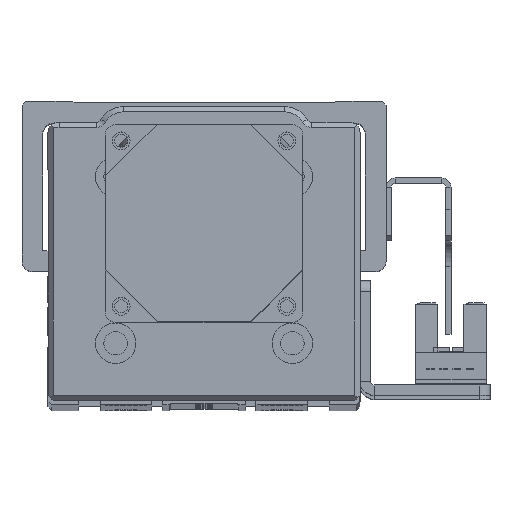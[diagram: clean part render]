
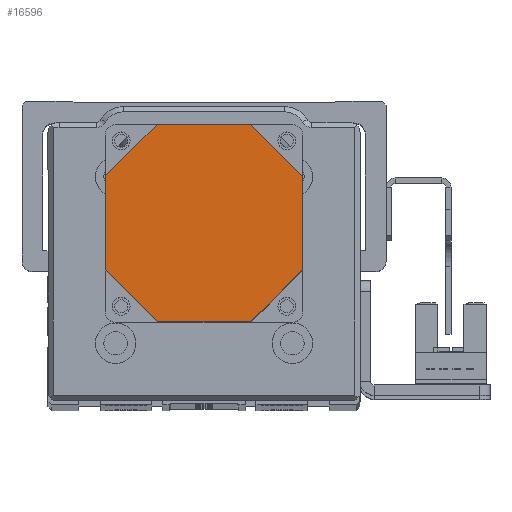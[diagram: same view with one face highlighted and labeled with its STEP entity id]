
A CAD part, top view. The second image highlights one B-rep face of the part: STEP entity #16596.
In plain terms, the highlighted planar face has unit normal (0, 0, 1) as drawn and (0, 0, -1) by its records, which use the part's own axes.
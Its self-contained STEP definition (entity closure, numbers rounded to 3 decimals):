
#3994 = EDGE_LOOP ( 'NONE', ( #14112, #14205, #14138, #14051, #13997, #14090, #14099, #14114 ) ) ;
#4640 = DIRECTION ( 'NONE',  ( 1., 0., 0. ) ) ;
#4665 = CARTESIAN_POINT ( 'NONE',  ( 9., 19., -84. ) ) ;
#4666 = CARTESIAN_POINT ( 'NONE',  ( 19., 9., -84. ) ) ;
#4692 = DIRECTION ( 'NONE',  ( 0., -1., 0. ) ) ;
#4759 = CARTESIAN_POINT ( 'NONE',  ( 19., -9., -84. ) ) ;
#4767 = DIRECTION ( 'NONE',  ( -0.707, -0.707, 0. ) ) ;
#4810 = CARTESIAN_POINT ( 'NONE',  ( -9., -19., -84. ) ) ;
#4827 = DIRECTION ( 'NONE',  ( -0.707, 0.707, 0. ) ) ;
#4898 = DIRECTION ( 'NONE',  ( 0.707, -0.707, 0. ) ) ;
#4901 = CARTESIAN_POINT ( 'NONE',  ( 9., -19., -84. ) ) ;
#4908 = DIRECTION ( 'NONE',  ( -1., 0., 0. ) ) ;
#4928 = CARTESIAN_POINT ( 'NONE',  ( 19., 9., -84. ) ) ;
#5003 = CARTESIAN_POINT ( 'NONE',  ( -19., 9., -84. ) ) ;
#5008 = DIRECTION ( 'NONE',  ( 0., 1., 0. ) ) ;
#5100 = CARTESIAN_POINT ( 'NONE',  ( -9., 19., -84. ) ) ;
#5105 = DIRECTION ( 'NONE',  ( 0.707, 0.707, 0. ) ) ;
#7036 = EDGE_CURVE ( 'NONE', #9597, #9594, #20136, .T. ) ;
#7053 = EDGE_CURVE ( 'NONE', #9551, #9556, #20239, .T. ) ;
#7090 = EDGE_CURVE ( 'NONE', #9556, #9566, #20288, .T. ) ;
#7099 = EDGE_CURVE ( 'NONE', #9647, #9634, #20302, .T. ) ;
#7116 = EDGE_CURVE ( 'NONE', #9594, #9551, #20433, .T. ) ;
#7122 = EDGE_CURVE ( 'NONE', #9566, #9647, #20465, .T. ) ;
#7148 = EDGE_CURVE ( 'NONE', #9634, #9613, #20527, .T. ) ;
#7185 = EDGE_CURVE ( 'NONE', #9613, #9597, #20551, .T. ) ;
#9551 = VERTEX_POINT ( 'NONE', #10848 ) ;
#9556 = VERTEX_POINT ( 'NONE', #10816 ) ;
#9566 = VERTEX_POINT ( 'NONE', #10880 ) ;
#9594 = VERTEX_POINT ( 'NONE', #10882 ) ;
#9597 = VERTEX_POINT ( 'NONE', #10863 ) ;
#9613 = VERTEX_POINT ( 'NONE', #10892 ) ;
#9634 = VERTEX_POINT ( 'NONE', #10974 ) ;
#9647 = VERTEX_POINT ( 'NONE', #10977 ) ;
#10816 = CARTESIAN_POINT ( 'NONE',  ( 19., -9., -84. ) ) ;
#10848 = CARTESIAN_POINT ( 'NONE',  ( 19., 9., -84. ) ) ;
#10863 = CARTESIAN_POINT ( 'NONE',  ( -9., 19., -84. ) ) ;
#10880 = CARTESIAN_POINT ( 'NONE',  ( 9., -19., -84. ) ) ;
#10882 = CARTESIAN_POINT ( 'NONE',  ( 9., 19., -84. ) ) ;
#10892 = CARTESIAN_POINT ( 'NONE',  ( -19., 9., -84. ) ) ;
#10974 = CARTESIAN_POINT ( 'NONE',  ( -19., -9., -84. ) ) ;
#10977 = CARTESIAN_POINT ( 'NONE',  ( -9., -19., -84. ) ) ;
#11095 = FACE_OUTER_BOUND ( 'NONE', #3994, .T. ) ;
#12463 = DIRECTION ( 'NONE',  ( 0., 0., 1. ) ) ;
#12478 = PLANE ( 'NONE',  #16999 ) ;
#12483 = CARTESIAN_POINT ( 'NONE',  ( 0., 0., -84. ) ) ;
#12496 = DIRECTION ( 'NONE',  ( 1., 0., 0. ) ) ;
#13997 = ORIENTED_EDGE ( 'NONE', *, *, #7116, .T. ) ;
#14051 = ORIENTED_EDGE ( 'NONE', *, *, #7036, .T. ) ;
#14090 = ORIENTED_EDGE ( 'NONE', *, *, #7053, .T. ) ;
#14099 = ORIENTED_EDGE ( 'NONE', *, *, #7090, .T. ) ;
#14112 = ORIENTED_EDGE ( 'NONE', *, *, #7099, .T. ) ;
#14114 = ORIENTED_EDGE ( 'NONE', *, *, #7122, .T. ) ;
#14138 = ORIENTED_EDGE ( 'NONE', *, *, #7185, .T. ) ;
#14205 = ORIENTED_EDGE ( 'NONE', *, *, #7148, .T. ) ;
#16596 = ADVANCED_FACE ( 'NONE', ( #11095 ), #12478, .F. ) ;
#16999 = AXIS2_PLACEMENT_3D ( 'NONE', #12483, #12463, #12496 ) ;
#20136 = LINE ( 'NONE', #4665, #20207 ) ;
#20207 = VECTOR ( 'NONE', #4640, 1000. ) ;
#20239 = LINE ( 'NONE', #4666, #20240 ) ;
#20240 = VECTOR ( 'NONE', #4692, 1000. ) ;
#20275 = VECTOR ( 'NONE', #4827, 1000. ) ;
#20288 = LINE ( 'NONE', #4759, #20335 ) ;
#20302 = LINE ( 'NONE', #4810, #20275 ) ;
#20335 = VECTOR ( 'NONE', #4767, 1000. ) ;
#20420 = VECTOR ( 'NONE', #4908, 1000. ) ;
#20433 = LINE ( 'NONE', #4928, #20449 ) ;
#20449 = VECTOR ( 'NONE', #4898, 1000. ) ;
#20465 = LINE ( 'NONE', #4901, #20420 ) ;
#20496 = VECTOR ( 'NONE', #5105, 1000. ) ;
#20527 = LINE ( 'NONE', #5003, #20563 ) ;
#20551 = LINE ( 'NONE', #5100, #20496 ) ;
#20563 = VECTOR ( 'NONE', #5008, 1000. ) ;
